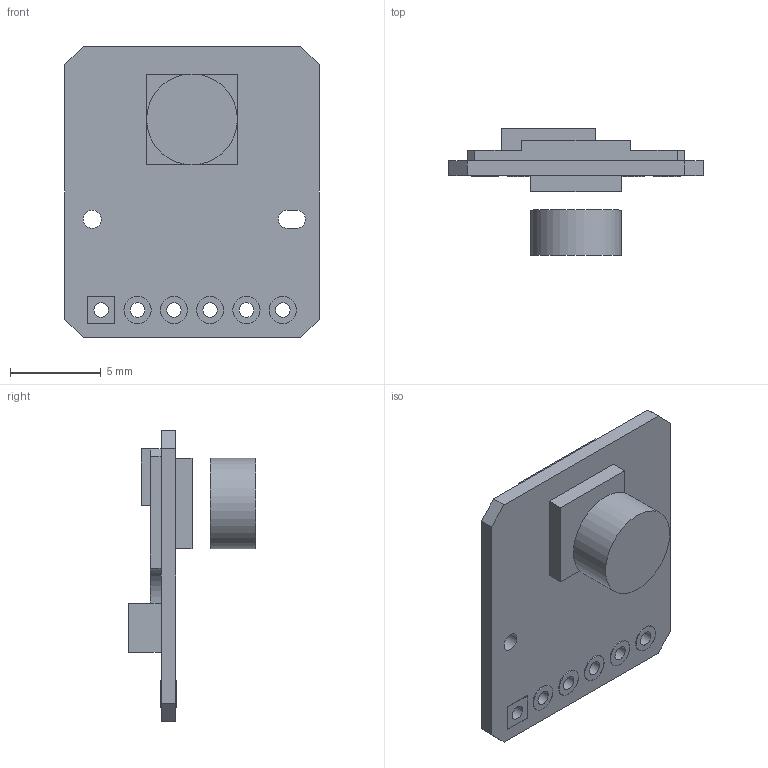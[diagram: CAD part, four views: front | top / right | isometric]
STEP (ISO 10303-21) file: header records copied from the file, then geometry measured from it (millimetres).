
FILE_DESCRIPTION(/* description */ ('Unknown'),/* implementation_level */ '2;1');
FILE_NAME(/* name */ 'P1514-1771-03',/* time_stamp */ '2026-01-14T19:18:04+01:00',/* author */ ('Unknown'),/* organization */ ('Unknown'),/* preprocessor_version */ 'ST-DEVELOPER v19.4',/* originating_system */ 'Solid Edge',/* authorisation */ 'Unknown');
FILE_SCHEMA (('AUTOMOTIVE_DESIGN {1 0 10303 214 3 1 1}'));
Length unit declared in the file: millimetre
Products named in the file (1): P1514-1771-03
Bounding box: 14 x 7 x 16 mm (x, y, z)
Volume: 336.4 mm3; surface area: 653 mm2
Topology: 2 solids, 2 shells, 77 faces, 183 edges, 124 vertices
Faces by surface type: plane 55, cylinder 22
Full cylindrical faces by diameter (mm): 0.8 x6, 1 x1, 1.5 x10, 5 x1
Entity records: 2657 total; most frequent: DIRECTION 358, CARTESIAN_POINT 353, ORIENTED_EDGE 316, EDGE_CURVE 158, EDGE_LOOP 125, FACE_BOUND 125, AXIS2_PLACEMENT_3D 122, VERTEX_POINT 117
